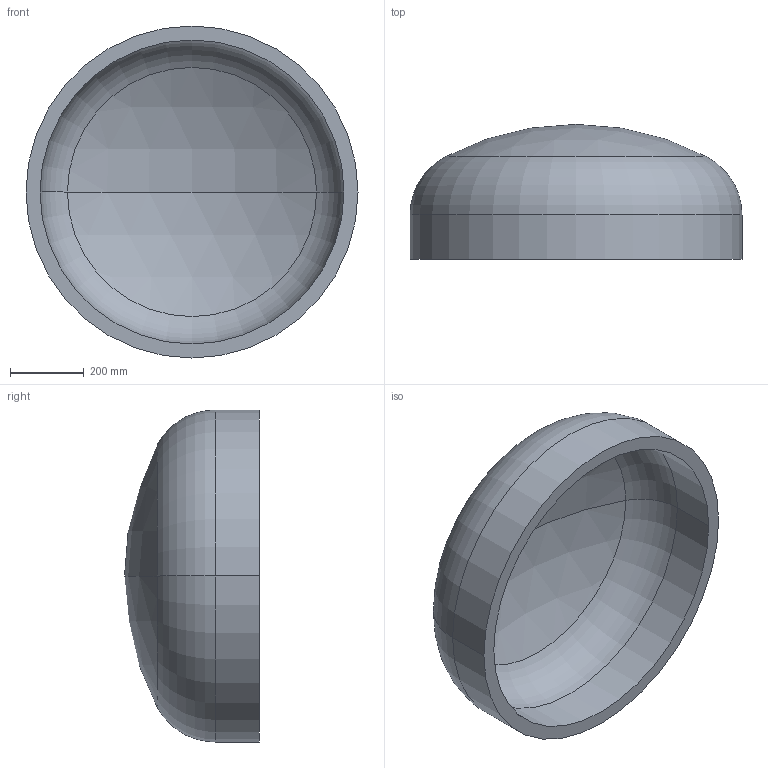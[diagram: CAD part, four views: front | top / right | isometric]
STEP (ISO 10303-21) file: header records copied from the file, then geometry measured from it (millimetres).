
FILE_DESCRIPTION (( 'STEP AP203' ), '1' );
FILE_NAME ('DIN 28013 Korbbogenform_-_Boden DIN 28013 - 900 x 120 - I - s=38.step', '2016-07-01T08:30:54', ( '' ), ( '' ), 'SwSTEP 2.0', 'SolidWorks 2013', '' );
FILE_SCHEMA (( 'CONFIG_CONTROL_DESIGN' ));
Length unit declared in the file: millimetre
Products named in the file (1): DIN 28013 Korbbogenform_-_Boden DIN 28013 - 900 x 120 - I - s=38
Bounding box: 900 x 365.73 x 900 mm (x, y, z)
Volume: 44115981.1 mm3; surface area: 2427823.5 mm2
Topology: 1 solids, 1 shells, 13 faces, 24 edges, 14 vertices
Faces by surface type: torus 4, cylinder 4, sphere 4, plane 1
Entity records: 407 total; most frequent: DIRECTION 72, CARTESIAN_POINT 52, ORIENTED_EDGE 48, AXIS2_PLACEMENT_3D 34, EDGE_CURVE 24, CIRCLE 20, EDGE_LOOP 14, VERTEX_POINT 14
